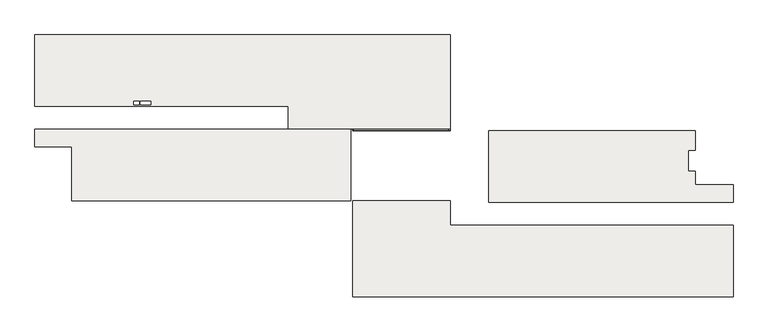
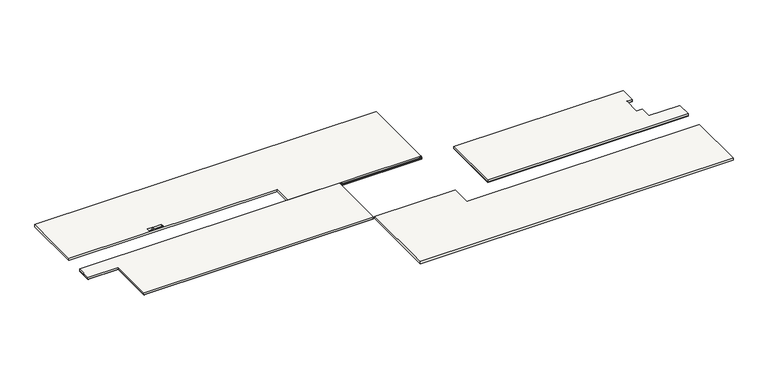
"""IFC4 building model written with IfcOpenShell, lengths in millimetres: slab geometry, Sol-02 - dalle béton 30cm + finition 1cm."""

from ifc_helpers import new_model, si_unit, frame, origin, place, context, project, spatial, polyline, outline, extrude, source, transform, mapped, element, save


def slab_ce7a119d(model_context):
    return source(origin(), model_context, "Body", "SweptSolid", [
        extrude(outline(polyline([(-4099.9988284, -21901.5656731), (-4099.9988284, -30103.1349959), (-47679.998776, -30103.1349959), (-47679.998776, -19100.7903364), (-36479.9987968, -19100.7903364), (-36479.9987968, -21901.5656731), (-4099.9988284, -21901.5656731)])), frame((0.0, 0.0, -310.0), z_axis=(0.0, 0.0, 1.0), x_axis=(1.0, 0.0, 0.0)), (0.0, 0.0, 1.0), 310.0),
        extrude(outline(polyline([(-84094.9987767, -8300.4850099), (-84094.9987767, -100.0), (-36494.9987968, -100.0), (-36494.9987968, -10859.999999), (-55079.998776, -10859.999999), (-55079.998776, -8300.4850099), (-84094.9987767, -8300.4850099)]), holes=[polyline([(-70844.998776, -7700.4850099), (-72037.9987968, -7700.4850099), (-72037.9987968, -8100.4850099), (-70844.998776, -8100.4850099), (-70844.998776, -7700.4850099)]), polyline([(-72137.9987968, -7700.4850099), (-72797.9987968, -7700.4850099), (-72797.9987968, -8100.4850099), (-72137.9987968, -8100.4850099), (-72137.9987968, -7700.4850099)])]), frame((0.0, 0.0, -310.0), z_axis=(0.0, 0.0, 1.0), x_axis=(1.0, 0.0, 0.0)), (0.0, 0.0, 1.0), 310.0),
        extrude(outline(polyline([(-32092.9988284, -19300.7903364), (-32092.9988284, -11099.999999), (-8452.9988284, -11099.999999), (-8452.9988284, -13300.7903364), (-9252.9988284, -13300.7903364), (-9252.9988284, -15700.7903364), (-8452.9988284, -15700.7903364), (-8452.9988284, -17269.5903364), (-4099.9988284, -17269.5903364), (-4099.9988284, -19300.7903364), (-32092.9988284, -19300.7903364)])), frame((0.0, 0.0, -310.0), z_axis=(0.0, 0.0, 1.0), x_axis=(1.0, 0.0, 0.0)), (0.0, 0.0, 1.0), 10.0),
        extrude(outline(polyline([(-32092.9988284, -11099.999999), (-8452.9988284, -11099.999999), (-8452.9988284, -13300.7903364), (-9252.9988284, -13300.7903364), (-9252.9988284, -15700.7903364), (-8452.9988284, -15700.7903364), (-8452.9988284, -17269.5903364), (-4099.9988284, -17269.5903364), (-4099.9988284, -19300.7903364), (-32092.9988284, -19300.7903364), (-32092.9988284, -11099.999999)])), frame((0.0, 0.0, -300.0), z_axis=(0.0, 0.0, 1.0), x_axis=(1.0, 0.0, 0.0)), (0.0, 0.0, 1.0), 300.0),
        extrude(outline(polyline([(0.0, -47679.998776), (-310.0, -47679.998776), (-310.0, -36494.9987968), (0.0, -36494.9987968), (0.0, -36679.9987968), (-210.0, -36679.9987968), (-210.0, -47629.998776), (0.0, -47629.998776), (0.0, -47679.998776)])), frame((0.0, -11100.0, 0.0), z_axis=(0.0, 1.0, 0.0), x_axis=(0.0, 0.0, 1.0)), (0.0, 0.0, 1.0), 10.0),
        extrude(outline(polyline([(-310.0, -47679.998776), (-310.0, -36494.9987968), (0.0, -36494.9987968), (0.0, -36679.9987968), (-210.0, -36679.9987968), (-210.0, -47629.998776), (0.0, -47629.998776), (0.0, -47679.998776), (-310.0, -47679.998776)])), frame((0.0, -11090.0, 0.0), z_axis=(0.0, 1.0, 0.0), x_axis=(0.0, 0.0, 1.0)), (0.0, 0.0, 1.0), 190.0),
        extrude(outline(polyline([(-47919.998776, -10899.999999), (-47919.998776, -19100.7903364), (-79864.998776, -19100.7903364), (-79864.998776, -12899.999999), (-84094.9987767, -12899.999999), (-84094.9987767, -10899.999999), (-47919.998776, -10899.999999)])), frame((0.0, 0.0, -310.0), z_axis=(0.0, 0.0, 1.0), x_axis=(1.0, 0.0, 0.0)), (0.0, 0.0, 1.0), 10.0),
        extrude(outline(polyline([(-47919.998776, -19100.7903364), (-79864.998776, -19100.7903364), (-79864.998776, -12899.999999), (-84094.9987767, -12899.999999), (-84094.9987767, -10899.999999), (-47919.998776, -10899.999999), (-47919.998776, -19100.7903364)])), frame((0.0, 0.0, -300.0), z_axis=(0.0, 0.0, 1.0), x_axis=(1.0, 0.0, 0.0)), (0.0, 0.0, 1.0), 300.0),
    ])


if __name__ == "__main__":
    model = new_model("IFC4")
    model_context = context("Model", 3, world=origin())
    ifc_project = project(units=[si_unit("LENGTHUNIT", "METRE", prefix="MILLI")], contexts=[model_context])
    site = spatial("IfcSite", under=ifc_project)
    building = spatial("IfcBuilding", under=site)
    placement = place(None, origin())
    slab_shape = slab_ce7a119d(model_context)
    element("IfcSlab", 1, ObjectType="Sol-02 - dalle béton 30cm + finition 1cm", at=placement, inside=building, context=model_context, shape_type="MappedRepresentation", body=[
        mapped(slab_shape, transform((0.0, 0.0, 0.0), x_axis=(1.0, 0.0, 0.0), y_axis=(0.0, 1.0, 0.0), z_axis=(0.0, 0.0, 1.0))),
    ])
    save(model, "model.ifc")
